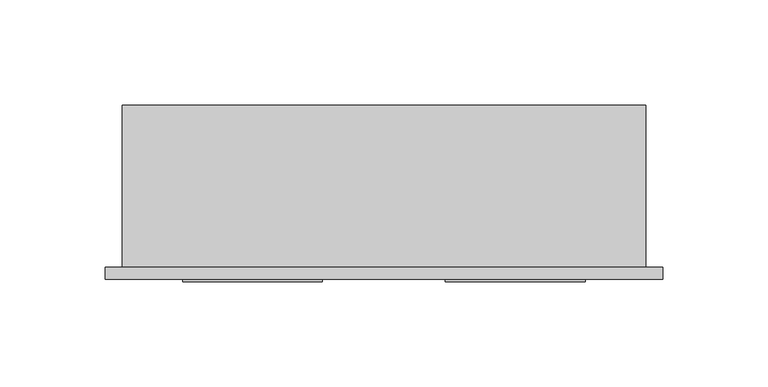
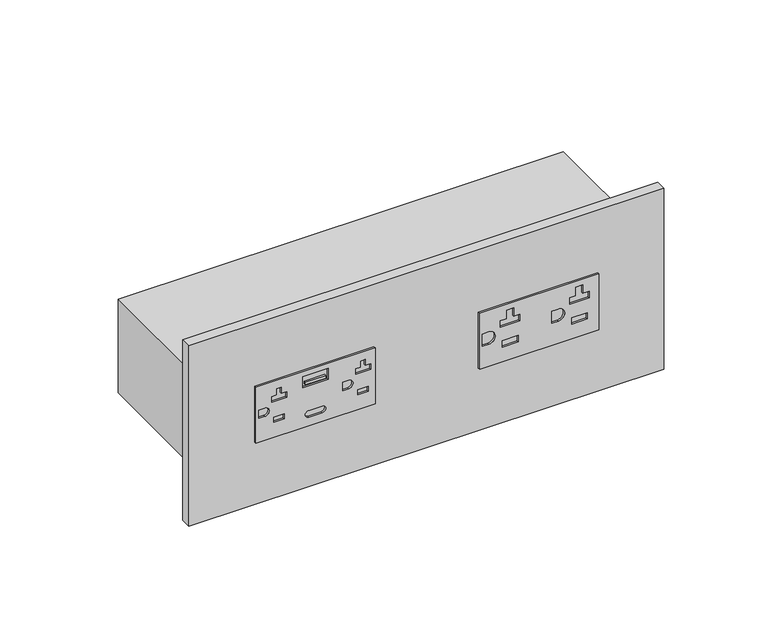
"""IFC4 building model written with IfcOpenShell, lengths in millimetres: proxy geometry, Electrical-Teknion-EPDHD_Horizontal_Power_Data_Double-R2019 : PD Horizontal Module - Double 20 Amp USB (A+C) & 20 Amp Standard."""

import ifcopenshell
import ifcopenshell.guid

model = None  # the IFC model being written
_history = None  # IfcOwnerHistory: only IFC2X3 demands one
_inside = {}  # id of a spatial element -> (the spatial element, [elements in it])
_under = {}  # id of a project, library or spatial element -> (it, [spatial elements below it])
_declared = {}  # id of a project -> (the project, [libraries it declares])
_typed = {}  # id of a type object -> (the type object, [elements of that type])
_made_of = {}  # id of a material, layer set ... -> (it, [elements and type objects made of it])


def new_model(schema):
    """Start an empty IFC model of exactly this schema.

    Asked for "IFC4X3", IfcOpenShell would pick the latest addendum, in which some entities
    have other attributes; the version numbers below select the first issue.
    IFC2X3 requires an IfcOwnerHistory on every rooted entity: one is made here for all.
    """
    global model, _history
    if schema == "IFC4X3":
        model = ifcopenshell.file(schema_version=(4, 3, 0, 0))
    else:
        model = ifcopenshell.file(schema=schema)
    _inside.clear()
    _under.clear()
    _declared.clear()
    _typed.clear()
    _made_of.clear()
    _history = None
    if model.schema == "IFC2X3":
        org = make("IfcOrganization", Name="unknown")
        user = make(
            "IfcPersonAndOrganization",
            ThePerson=make("IfcPerson", FamilyName="unknown"),
            TheOrganization=org,
        )
        app = make(
            "IfcApplication",
            ApplicationDeveloper=org,
            Version="unknown",
            ApplicationFullName="unknown",
            ApplicationIdentifier="unknown",
        )
        _history = make(
            "IfcOwnerHistory",
            OwningUser=user,
            OwningApplication=app,
            ChangeAction="ADDED",
            CreationDate=0,
        )
    return model


def make(cls, **values):
    """One entity of the class cls with the attributes given. An attribute that is None is left unset."""
    return model.create_entity(
        cls, **{name: value for name, value in values.items() if value is not None}
    )


def rooted(cls, **values):
    """An entity with a GlobalId (a new one), such as an element, a storey or a relation."""
    return make(cls, GlobalId=ifcopenshell.guid.new(), OwnerHistory=_history, **values)


def si_unit(unit_type, name, prefix=None):
    """IfcSIUnit, for example si_unit("LENGTHUNIT", "METRE", prefix="MILLI")."""
    return make("IfcSIUnit", UnitType=unit_type, Prefix=prefix, Name=name)


def assignment(units):
    """IfcUnitAssignment: the units of a project."""
    return None if units is None else make("IfcUnitAssignment", Units=units)


def point(xyz):
    """IfcCartesianPoint."""
    return None if xyz is None else make("IfcCartesianPoint", Coordinates=xyz)


def direction(xyz):
    """IfcDirection."""
    return None if xyz is None else make("IfcDirection", DirectionRatios=xyz)


def frame(location, z_axis=None, x_axis=None):
    """IfcAxis2Placement3D, a coordinate frame: its origin and axes. An axis left out is left unset."""
    return make(
        "IfcAxis2Placement3D",
        Location=point(location),
        Axis=direction(z_axis),
        RefDirection=direction(x_axis),
    )


def frame_2d(location, x_axis=None):
    """IfcAxis2Placement2D, a coordinate frame in the plane: its origin and x axis."""
    return make(
        "IfcAxis2Placement2D", Location=point(location), RefDirection=direction(x_axis)
    )


def origin():
    """The frame at (0, 0, 0) with its axes left unset."""
    return frame((0.0, 0.0, 0.0))


def place(relative_to, where):
    """IfcLocalPlacement: puts the frame where relative to a parent placement (None: the world)."""
    return make(
        "IfcLocalPlacement", PlacementRelTo=relative_to, RelativePlacement=where
    )


def context(
    kind, dimensions, precision=None, world=None, true_north=None, identifier=None
):
    """IfcGeometricRepresentationContext, for example the 3D "Model" context."""
    return make(
        "IfcGeometricRepresentationContext",
        ContextIdentifier=identifier,
        ContextType=kind,
        CoordinateSpaceDimension=dimensions,
        Precision=precision,
        WorldCoordinateSystem=world,
        TrueNorth=true_north,
    )


def project(units=None, contexts=None):
    """IfcProject with its units and contexts."""
    return rooted(
        "IfcProject",
        Name="project",
        RepresentationContexts=contexts,
        UnitsInContext=assignment(units),
    )


def spatial(cls, under=None, at=None, **own):
    """A site, building, storey or space (cls), placed at a placement, below another one or the project."""
    s = rooted(cls, ObjectPlacement=at, **own)
    if under is not None:
        _under.setdefault(under.id(), (under, []))[1].append(s)
    return s


def polyline(points):
    """IfcPolyline through the points."""
    return make("IfcPolyline", Points=[point(p) for p in points])


def circle_curve(where, radius):
    """IfcCircle in the frame where."""
    return make("IfcCircle", Position=where, Radius=radius)


def trimmed(basis, trim1, trim2, sense, master):
    """IfcTrimmedCurve: the piece of a basis curve between two trims."""
    return make(
        "IfcTrimmedCurve",
        BasisCurve=basis,
        Trim1=trim1,
        Trim2=trim2,
        SenseAgreement=sense,
        MasterRepresentation=master,
    )


def segment(curve, same_sense, transition):
    """IfcCompositeCurveSegment."""
    return make(
        "IfcCompositeCurveSegment",
        Transition=transition,
        SameSense=same_sense,
        ParentCurve=curve,
    )


def composite_curve(segments, self_intersect=None):
    """IfcCompositeCurve: segments joined end to end."""
    return make("IfcCompositeCurve", Segments=segments, SelfIntersect=self_intersect)


def outline(outer, holes=None, kind="AREA"):
    """IfcArbitraryClosedProfileDef: a profile drawn as a closed curve; with holes, ...WithVoids."""
    if holes is None:
        return make("IfcArbitraryClosedProfileDef", ProfileType=kind, OuterCurve=outer)
    return make(
        "IfcArbitraryProfileDefWithVoids",
        ProfileType=kind,
        OuterCurve=outer,
        InnerCurves=holes,
    )


def extrude(swept, where, along, depth):
    """IfcExtrudedAreaSolid: the profile swept, set in the frame where, extruded along a direction by depth."""
    return make(
        "IfcExtrudedAreaSolid",
        SweptArea=swept,
        Position=where,
        ExtrudedDirection=direction(along),
        Depth=depth,
    )


def shape(context_of_items, identifier, shape_type, items):
    """IfcShapeRepresentation: the items that make up one representation, for example the "Body"."""
    return make(
        "IfcShapeRepresentation",
        ContextOfItems=context_of_items,
        RepresentationIdentifier=identifier,
        RepresentationType=shape_type,
        Items=items,
    )


def source(mapping_origin, context_of_items, identifier, shape_type, items):
    """IfcRepresentationMap: a shape defined once, which mapped items show again and again."""
    return make(
        "IfcRepresentationMap",
        MappingOrigin=mapping_origin,
        MappedRepresentation=shape(context_of_items, identifier, shape_type, items),
    )


def transform(
    local_origin,
    x_axis=None,
    y_axis=None,
    z_axis=None,
    scale=None,
    scale2=None,
    scale3=None,
    uniform=True,
):
    """IfcCartesianTransformationOperator3D, or its non-uniform kind. x_axis, y_axis, z_axis: its Axis1, 2, 3."""
    if uniform:
        return make(
            "IfcCartesianTransformationOperator3D",
            Axis1=direction(x_axis),
            Axis2=direction(y_axis),
            LocalOrigin=point(local_origin),
            Scale=scale,
            Axis3=direction(z_axis),
        )
    return make(
        "IfcCartesianTransformationOperator3DnonUniform",
        Axis1=direction(x_axis),
        Axis2=direction(y_axis),
        LocalOrigin=point(local_origin),
        Scale=scale,
        Axis3=direction(z_axis),
        Scale2=scale2,
        Scale3=scale3,
    )


def mapped(mapping_source, mapping_target):
    """IfcMappedItem: shows the shape of a source again, moved by a transform."""
    return make(
        "IfcMappedItem", MappingSource=mapping_source, MappingTarget=mapping_target
    )


def made_of(thing, what):
    """Note that an element or type object is made of a material, layer set ...; save() writes the relation."""
    if what is not None:
        _made_of.setdefault(what.id(), (what, []))[1].append(thing)
    return thing


def element(
    cls,
    number,
    at=None,
    inside=None,
    cuts=None,
    type_object=None,
    material=None,
    context=None,
    identifier="Body",
    shape_type=None,
    held_by="IfcProductDefinitionShape",
    body=None,
    shapes=None,
    **own,
):
    """One element of the class cls, such as IfcWall. Its Tag is "e" and its number.

    at: its placement. inside: the storey or other place that contains it. cuts: it is an
    opening in that element (IfcRelVoidsElement). A single representation is given by context,
    identifier, shape_type and body (its items); several are given by shapes. held_by: the class
    of the entity that holds the representations. save() writes the other relations.
    """
    e = rooted(cls, Tag="e%d" % number, ObjectPlacement=at, **own)
    if body is not None:
        shapes = [shape(context, identifier, shape_type, body)]
    if shapes is not None:
        e.Representation = make(held_by, Representations=shapes)
    if inside is not None:
        _inside.setdefault(inside.id(), (inside, []))[1].append(e)
    if cuts is not None:
        rooted(
            "IfcRelVoidsElement", RelatingBuildingElement=cuts, RelatedOpeningElement=e
        )
    if type_object is not None:
        _typed.setdefault(type_object.id(), (type_object, []))[1].append(e)
    return made_of(e, material)


def aggregate(whole, parts):
    """IfcRelAggregates: a whole, such as a stair, and the parts it consists of."""
    return rooted("IfcRelAggregates", RelatingObject=whole, RelatedObjects=parts)


def save(model, path):
    """Write the relations noted so far, then the file.

    IfcRelAggregates (storeys below a building ...), IfcRelContainedInSpatialStructure (elements
    in a storey), IfcRelDefinesByType, IfcRelAssociatesMaterial and IfcRelDeclares: one each for
    every whole, place, type object, material and project.
    """
    for whole, parts in _under.values():
        aggregate(whole, parts)
    for where, things in _inside.values():
        rooted(
            "IfcRelContainedInSpatialStructure",
            RelatedElements=things,
            RelatingStructure=where,
        )
    for kind, things in _typed.values():
        rooted("IfcRelDefinesByType", RelatedObjects=things, RelatingType=kind)
    for what, things in _made_of.values():
        rooted("IfcRelAssociatesMaterial", RelatedObjects=things, RelatingMaterial=what)
    for by, libraries in _declared.values():
        rooted("IfcRelDeclares", RelatingContext=by, RelatedDefinitions=libraries)
    model.write(path)


def electrical_fixtures_fca81bba(model_context):
    return source(origin(), model_context, "Body", "SweptSolid", [
        extrude(outline(polyline([(821.6131229, 28.6403983), (821.6131229, 95.1883983), (854.6077229, 95.1883983), (854.6077229, 28.6403983), (821.6131229, 28.6403983)]), holes=[polyline([(846.0827049, 40.1197211), (849.6102126, 40.1197211), (849.6102126, 42.8573384), (846.0827049, 42.8573384), (846.0827049, 45.7522735), (842.7521499, 45.7522735), (842.7521499, 37.4365232), (846.0827049, 37.4365232), (846.0827049, 40.1197211)]), composite_curve([segment(trimmed(circle_curve(frame_2d((838.1104229, 33.5112452)), 2.4638), [point((840.5742229, 33.5112452))], [point((835.6466229, 33.5112452))], True, "CARTESIAN"), True, "CONTINUOUS"), segment(polyline([(835.6466229, 33.5112452), (835.6466229, 30.1643983), (840.5742229, 30.1643983), (840.5742229, 33.5112452)]), True, "CONTINUOUS")], self_intersect=False), polyline([(833.2906533, 44.5059746), (830.3161837, 44.5059746), (830.3161837, 38.6828221), (833.2906533, 38.6828221), (833.2906533, 44.5059746)]), composite_curve([segment(trimmed(circle_curve(frame_2d((828.5727229, 65.6989983)), 1.905), [point((830.4777229, 65.6989983))], [point((826.6677229, 65.6989983))], True, "CARTESIAN"), True, "CONTINUOUS"), segment(polyline([(826.6677229, 65.6989983), (826.6677229, 58.1297983)]), True, "CONTINUOUS"), segment(trimmed(circle_curve(frame_2d((828.5727229, 58.1297983)), 1.905), [point((826.6677229, 58.1297983))], [point((830.4777229, 58.1297983))], True, "CARTESIAN"), True, "CONTINUOUS"), segment(polyline([(830.4777229, 58.1297983), (830.4777229, 65.6989983)]), True, "CONTINUOUS")], self_intersect=False), polyline([(851.6839163, 68.9581973), (845.1828612, 68.9581973), (845.1828612, 54.8644614), (851.6839163, 54.8644614), (851.6839163, 68.9581973)]), composite_curve([segment(trimmed(circle_curve(frame_2d((838.1104229, 80.4516358)), 2.4638), [point((840.5742229, 80.4516358))], [point((835.6466229, 80.4516358))], True, "CARTESIAN"), True, "CONTINUOUS"), segment(polyline([(835.6466229, 80.4516358), (835.6466229, 77.1543983), (840.5742229, 77.1543983), (840.5742229, 80.4516358)]), True, "CONTINUOUS")], self_intersect=False), polyline([(846.0795499, 87.1097211), (849.6102126, 87.1097211), (849.6102126, 89.8473384), (846.0795499, 89.8473384), (846.0795499, 92.7422735), (842.7521499, 92.7422735), (842.7521499, 84.4265232), (846.0795499, 84.4265232), (846.0795499, 87.1097211)]), polyline([(833.2717229, 91.4959746), (830.2973829, 91.4959746), (830.2973829, 85.6728221), (833.2717229, 85.6728221), (833.2717229, 91.4959746)])]), frame((0.0, -6.9294746, 0.0), z_axis=(0.0, 1.0, 0.0), x_axis=(0.0, 0.0, 1.0)), (0.0, 0.0, 1.0), 1.0366746),
        extrude(outline(polyline([(67.6331469, -6.9294746), (56.1895117, -6.9294746), (56.1895117, -5.8928), (67.6331469, -5.8928), (67.6331469, -6.9294746)])), frame((0.0, 0.0, 846.3926879), z_axis=(0.0, 0.0, 1.0), x_axis=(1.0, 0.0, 0.0)), (0.0, 0.0, 1.0), 1.5209293),
        extrude(outline(polyline([(854.6077229, 153.6177375), (821.6131229, 153.6177375), (821.6131229, 220.2976041), (854.6077229, 220.2976041), (854.6077229, 153.6177375)]), holes=[composite_curve([segment(trimmed(circle_curve(frame_2d((838.1104229, 158.7899344)), 3.6322), [point((841.7426229, 158.7899344))], [point((834.4782229, 158.7899344))], True, "CARTESIAN"), True, "CONTINUOUS"), segment(polyline([(834.4782229, 158.7899344), (834.4782229, 155.1577344), (841.7426229, 155.1577344), (841.7426229, 158.7899344)]), True, "CONTINUOUS")], self_intersect=False), polyline([(846.1104069, 168.8173032), (851.2064089, 168.8173032), (851.2064089, 172.6781032), (846.1104069, 172.6781032), (846.1104069, 176.1776924), (842.2804146, 176.1776924), (842.2804146, 165.3177141), (846.1104069, 165.3177141), (846.1104069, 168.8173032)]), composite_curve([segment(polyline([(834.4782229, 197.5249344), (834.4782229, 193.8927344), (841.7426229, 193.8927344), (841.7426229, 197.5249344)]), True, "CONTINUOUS"), segment(trimmed(circle_curve(frame_2d((838.1104229, 197.5249344)), 3.6322), [point((841.7426229, 197.5249344))], [point((834.4782229, 197.5249344))], True, "CARTESIAN"), True, "CONTINUOUS")], self_intersect=False), polyline([(846.1104069, 207.5572257), (851.2064089, 207.5572257), (851.2064089, 211.4180257), (846.1104069, 211.4180257), (846.1104069, 214.9176149), (842.2804146, 214.9176149), (842.2804146, 204.0576366), (846.1104069, 204.0576366), (846.1104069, 207.5572257)]), polyline([(833.9404313, 213.9176169), (830.1104389, 213.9176169), (830.1104389, 205.0576346), (833.9404313, 205.0576346), (833.9404313, 213.9176169)]), polyline([(833.9404313, 175.1776944), (830.1104389, 175.1776944), (830.1104389, 166.3177121), (833.9404313, 166.3177121), (833.9404313, 175.1776944)])]), frame((0.0, -6.9294746, 0.0), z_axis=(0.0, 1.0, 0.0), x_axis=(0.0, 0.0, 1.0)), (0.0, 0.0, 1.0), 1.0366746),
        extrude(outline(polyline([(-8.2450977, 0.0), (257.1652913, 0.0), (257.1652913, -5.8928), (-8.2450977, -5.8928), (-8.2450977, 0.0)])), frame((0.0, 0.0, 784.6718508), z_axis=(0.0, 0.0, 1.0), x_axis=(1.0, 0.0, 0.0)), (0.0, 0.0, 1.0), 106.8771443),
        extrude(outline(polyline([(248.92, 0.0), (0.0, 0.0), (0.0, 77.054), (248.92, 77.054), (248.92, 0.0)])), frame((0.0, 0.0, 810.3355229), z_axis=(0.0, 0.0, 1.0), x_axis=(1.0, 0.0, 0.0)), (0.0, 0.0, 1.0), 55.5498),
    ])


if __name__ == "__main__":
    model = new_model("IFC4")
    model_context = context("Model", 3, world=origin())
    ifc_project = project(units=[si_unit("LENGTHUNIT", "METRE", prefix="MILLI")], contexts=[model_context])
    site = spatial("IfcSite", under=ifc_project)
    building = spatial("IfcBuilding", under=site)
    placement = place(None, origin())
    electrical_fixtures_shape = electrical_fixtures_fca81bba(model_context)
    element("IfcBuildingElementProxy", 1, Name="Electrical-Teknion-EPDHD_Horizontal_Power_Data_Double-R2019 : PD Horizontal Module - Double 20 Amp USB (A+C) & 20 Amp Standard", ObjectType="Electrical-Teknion-EPDHD_Horizontal_Power_Data_Double-R2019 : PD Horizontal Module - Double 20 Amp USB (A+C) & 20 Amp Standard", at=placement, inside=building, context=model_context, shape_type="MappedRepresentation", body=[
        mapped(electrical_fixtures_shape, transform((0.0, 0.0, 0.0), x_axis=(1.0, 0.0, 0.0), y_axis=(0.0, 1.0, 0.0), z_axis=(0.0, 0.0, 1.0))),
    ])
    save(model, "model.ifc")
